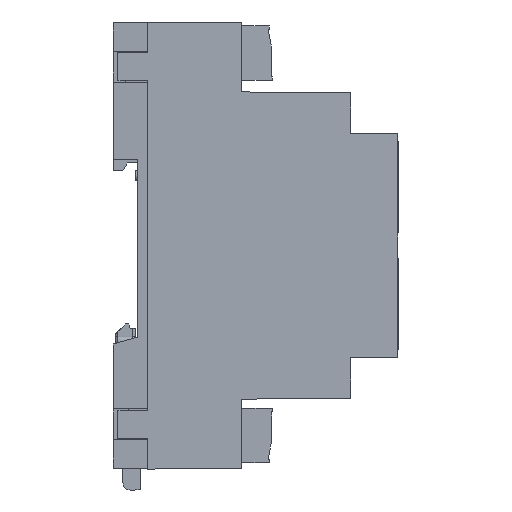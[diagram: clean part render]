
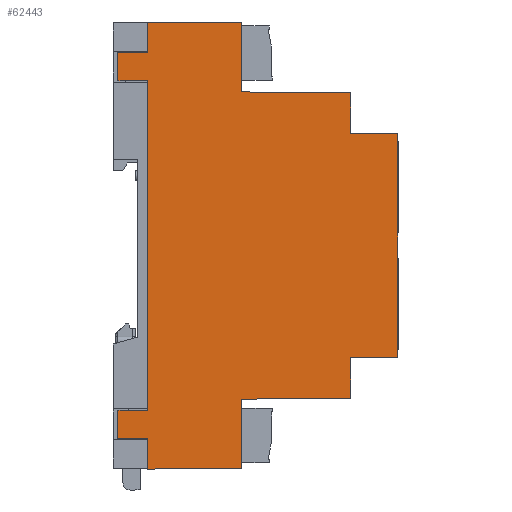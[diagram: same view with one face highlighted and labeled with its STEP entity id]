
A CAD part, left-side view. The second image highlights one B-rep face of the part: STEP entity #62443.
In plain terms, the highlighted planar face has unit normal (-1, 0, 0) as drawn and (0, -1, 0) by its records, which use the part's own axes.
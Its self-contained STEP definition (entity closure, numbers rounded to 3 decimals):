
#1378=PLANE('',#66050);
#4247=FACE_OUTER_BOUND('',#7763,.T.);
#7763=EDGE_LOOP('',(#44958,#44959,#44960,#44961,#44962,#44963,#44964,#44965,
#44966,#44967,#44968,#44969,#44970,#44971,#44972,#44973,#44974,#44975,#44976,
#44977));
#11734=LINE('',#89395,#19549);
#11743=LINE('',#89413,#19558);
#11745=LINE('',#89417,#19560);
#11748=LINE('',#89422,#19563);
#11751=LINE('',#89428,#19566);
#11776=LINE('',#89479,#19591);
#11787=LINE('',#89499,#19602);
#11788=LINE('',#89502,#19603);
#11792=LINE('',#89509,#19607);
#11817=LINE('',#89560,#19632);
#11827=LINE('',#89577,#19642);
#11834=LINE('',#89589,#19649);
#12026=LINE('',#90057,#19841);
#12029=LINE('',#90062,#19844);
#12032=LINE('',#90068,#19847);
#12034=LINE('',#90072,#19849);
#12036=LINE('',#90076,#19851);
#12039=LINE('',#90082,#19854);
#12042=LINE('',#90088,#19857);
#12045=LINE('',#90093,#19860);
#19549=VECTOR('',#71507,254.);
#19558=VECTOR('',#71524,254.);
#19560=VECTOR('',#71528,254.);
#19563=VECTOR('',#71533,254.);
#19566=VECTOR('',#71538,254.);
#19591=VECTOR('',#71579,254.);
#19602=VECTOR('',#71598,254.);
#19603=VECTOR('',#71601,254.);
#19607=VECTOR('',#71607,254.);
#19632=VECTOR('',#71646,254.);
#19642=VECTOR('',#71662,254.);
#19649=VECTOR('',#71673,254.);
#19841=VECTOR('',#72125,254.);
#19844=VECTOR('',#72130,254.);
#19847=VECTOR('',#72135,254.);
#19849=VECTOR('',#72139,254.);
#19851=VECTOR('',#72143,254.);
#19854=VECTOR('',#72148,254.);
#19857=VECTOR('',#72153,254.);
#19860=VECTOR('',#72158,254.);
#28544=VERTEX_POINT('',#89389);
#28546=VERTEX_POINT('',#89393);
#28551=VERTEX_POINT('',#89412);
#28552=VERTEX_POINT('',#89416);
#28553=VERTEX_POINT('',#89420);
#28555=VERTEX_POINT('',#89427);
#28572=VERTEX_POINT('',#89476);
#28573=VERTEX_POINT('',#89478);
#28579=VERTEX_POINT('',#89501);
#28581=VERTEX_POINT('',#89507);
#28600=VERTEX_POINT('',#89559);
#28603=VERTEX_POINT('',#89574);
#28604=VERTEX_POINT('',#89576);
#28751=VERTEX_POINT('',#90053);
#28753=VERTEX_POINT('',#90056);
#28755=VERTEX_POINT('',#90065);
#28757=VERTEX_POINT('',#90071);
#28758=VERTEX_POINT('',#90075);
#28760=VERTEX_POINT('',#90081);
#28762=VERTEX_POINT('',#90087);
#34628=EDGE_CURVE('',#28544,#28546,#11734,.T.);
#34637=EDGE_CURVE('',#28546,#28551,#11743,.T.);
#34639=EDGE_CURVE('',#28544,#28552,#11745,.T.);
#34642=EDGE_CURVE('',#28551,#28553,#11748,.T.);
#34645=EDGE_CURVE('',#28555,#28552,#11751,.T.);
#34670=EDGE_CURVE('',#28572,#28573,#11776,.T.);
#34681=EDGE_CURVE('',#28573,#28553,#11787,.T.);
#34682=EDGE_CURVE('',#28572,#28579,#11788,.T.);
#34686=EDGE_CURVE('',#28579,#28581,#11792,.T.);
#34711=EDGE_CURVE('',#28600,#28555,#11817,.T.);
#34721=EDGE_CURVE('',#28604,#28603,#11827,.T.);
#34728=EDGE_CURVE('',#28581,#28604,#11834,.T.);
#34956=EDGE_CURVE('',#28753,#28751,#12026,.T.);
#34959=EDGE_CURVE('',#28603,#28753,#12029,.T.);
#34962=EDGE_CURVE('',#28751,#28755,#12032,.T.);
#34964=EDGE_CURVE('',#28757,#28600,#12034,.T.);
#34966=EDGE_CURVE('',#28758,#28757,#12036,.T.);
#34969=EDGE_CURVE('',#28760,#28758,#12039,.T.);
#34972=EDGE_CURVE('',#28762,#28760,#12042,.T.);
#34975=EDGE_CURVE('',#28755,#28762,#12045,.T.);
#44958=ORIENTED_EDGE('',*,*,#34966,.T.);
#44959=ORIENTED_EDGE('',*,*,#34964,.T.);
#44960=ORIENTED_EDGE('',*,*,#34711,.T.);
#44961=ORIENTED_EDGE('',*,*,#34645,.T.);
#44962=ORIENTED_EDGE('',*,*,#34639,.F.);
#44963=ORIENTED_EDGE('',*,*,#34628,.T.);
#44964=ORIENTED_EDGE('',*,*,#34637,.T.);
#44965=ORIENTED_EDGE('',*,*,#34642,.T.);
#44966=ORIENTED_EDGE('',*,*,#34681,.F.);
#44967=ORIENTED_EDGE('',*,*,#34670,.F.);
#44968=ORIENTED_EDGE('',*,*,#34682,.T.);
#44969=ORIENTED_EDGE('',*,*,#34686,.T.);
#44970=ORIENTED_EDGE('',*,*,#34728,.T.);
#44971=ORIENTED_EDGE('',*,*,#34721,.T.);
#44972=ORIENTED_EDGE('',*,*,#34959,.T.);
#44973=ORIENTED_EDGE('',*,*,#34956,.T.);
#44974=ORIENTED_EDGE('',*,*,#34962,.T.);
#44975=ORIENTED_EDGE('',*,*,#34975,.T.);
#44976=ORIENTED_EDGE('',*,*,#34972,.T.);
#44977=ORIENTED_EDGE('',*,*,#34969,.T.);
#62443=ADVANCED_FACE('',(#4247),#1378,.T.);
#66050=AXIS2_PLACEMENT_3D('',#90092,#72156,#72157);
#71507=DIRECTION('',(1.,0.,0.));
#71524=DIRECTION('',(0.,0.,1.));
#71528=DIRECTION('',(0.,0.,1.));
#71533=DIRECTION('',(1.,0.,0.));
#71538=DIRECTION('',(1.,0.,0.));
#71579=DIRECTION('',(-1.,0.,0.));
#71598=DIRECTION('',(0.,0.,1.));
#71601=DIRECTION('',(0.,0.,1.));
#71607=DIRECTION('',(1.,0.,0.));
#71646=DIRECTION('',(-0.008,0.,-1.));
#71662=DIRECTION('',(-1.,0.,0.));
#71673=DIRECTION('',(-0.008,0.,1.));
#72125=DIRECTION('',(-1.,0.,0.));
#72130=DIRECTION('',(-0.008,0.,1.));
#72135=DIRECTION('',(-0.007,0.,1.));
#72139=DIRECTION('',(-1.,0.,0.));
#72143=DIRECTION('',(-0.008,0.,-1.));
#72148=DIRECTION('',(-1.,0.,0.));
#72153=DIRECTION('',(-0.007,0.,-1.));
#72156=DIRECTION('center_axis',(0.,-1.,0.));
#72157=DIRECTION('ref_axis',(0.,0.,-1.));
#72158=DIRECTION('',(-1.,0.,0.));
#89389=CARTESIAN_POINT('',(-988.06,-461.01,-152.4));
#89393=CARTESIAN_POINT('',(-843.28,-461.01,-152.4));
#89395=CARTESIAN_POINT('',(-988.06,-461.01,-152.4));
#89412=CARTESIAN_POINT('',(-843.28,-461.01,0.));
#89413=CARTESIAN_POINT('',(-843.28,-461.01,-152.4));
#89416=CARTESIAN_POINT('',(-988.06,-461.01,0.));
#89417=CARTESIAN_POINT('',(-988.06,-461.01,-152.4));
#89420=CARTESIAN_POINT('',(843.28,-461.01,0.));
#89422=CARTESIAN_POINT('',(-1107.439,-461.01,0.));
#89427=CARTESIAN_POINT('',(-1145.54,-461.01,0.));
#89428=CARTESIAN_POINT('',(-1107.439,-461.01,0.));
#89476=CARTESIAN_POINT('',(988.06,-461.01,-152.4));
#89478=CARTESIAN_POINT('',(843.28,-461.01,-152.4));
#89479=CARTESIAN_POINT('',(988.06,-461.01,-152.4));
#89499=CARTESIAN_POINT('',(843.28,-461.01,-152.4));
#89501=CARTESIAN_POINT('',(988.06,-461.01,0.));
#89502=CARTESIAN_POINT('',(988.06,-461.01,-152.4));
#89507=CARTESIAN_POINT('',(1145.54,-461.01,0.));
#89509=CARTESIAN_POINT('',(-1107.439,-461.01,0.));
#89559=CARTESIAN_POINT('',(-1141.73,-461.01,482.6));
#89560=CARTESIAN_POINT('',(-1145.54,-461.01,0.));
#89574=CARTESIAN_POINT('',(787.146,-461.01,482.6));
#89576=CARTESIAN_POINT('',(1141.73,-461.01,482.6));
#89577=CARTESIAN_POINT('',(787.146,-461.01,482.6));
#89589=CARTESIAN_POINT('',(1141.73,-461.01,482.6));
#90053=CARTESIAN_POINT('',(575.056,-461.01,1041.4));
#90056=CARTESIAN_POINT('',(782.574,-461.01,1041.4));
#90057=CARTESIAN_POINT('',(575.056,-461.01,1041.4));
#90062=CARTESIAN_POINT('',(782.574,-461.01,1041.4));
#90065=CARTESIAN_POINT('',(573.278,-461.01,1282.7));
#90068=CARTESIAN_POINT('',(573.278,-461.01,1282.7));
#90071=CARTESIAN_POINT('',(-787.146,-461.01,482.6));
#90072=CARTESIAN_POINT('',(-787.146,-461.01,482.6));
#90075=CARTESIAN_POINT('',(-782.574,-461.01,1041.4));
#90076=CARTESIAN_POINT('',(-787.146,-461.01,482.6));
#90081=CARTESIAN_POINT('',(-575.056,-461.01,1041.4));
#90082=CARTESIAN_POINT('',(-782.574,-461.01,1041.4));
#90087=CARTESIAN_POINT('',(-573.278,-461.01,1282.7));
#90088=CARTESIAN_POINT('',(-575.056,-461.01,1041.4));
#90092=CARTESIAN_POINT('Origin',(-688.583,-461.01,910.373));
#90093=CARTESIAN_POINT('',(535.177,-461.01,1282.7));
